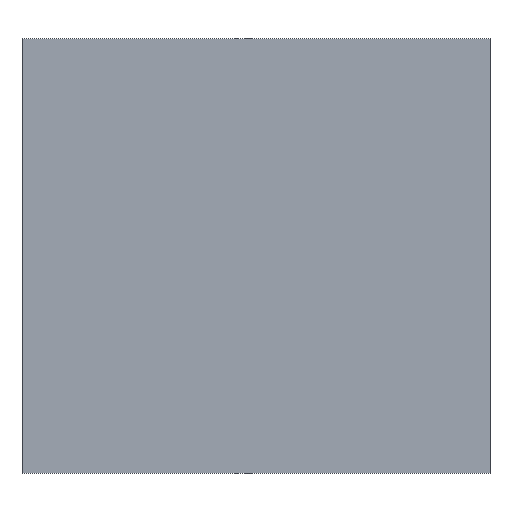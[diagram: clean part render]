
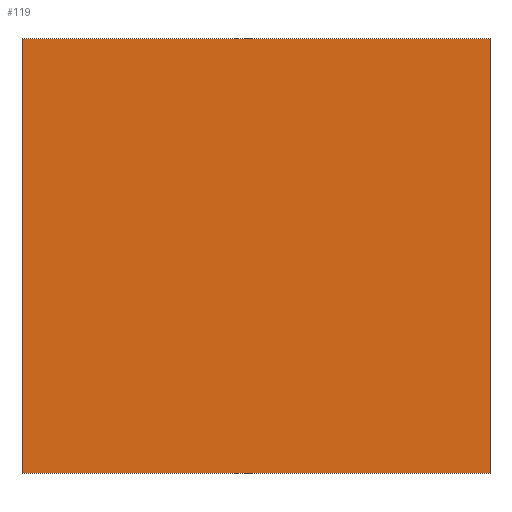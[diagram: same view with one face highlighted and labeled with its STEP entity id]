
A CAD part, left-side view. The second image highlights one B-rep face of the part: STEP entity #119.
In plain terms, the highlighted planar face has unit normal (-1, 0, 0).
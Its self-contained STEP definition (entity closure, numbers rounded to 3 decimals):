
#67=DIRECTION('',(0.,0.,-1.));
#68=VECTOR('',#67,2600.);
#69=CARTESIAN_POINT('',(-3541.5,-1400.,1299.));
#70=LINE('',#69,#68);
#75=DIRECTION('',(0.,1.,0.));
#76=VECTOR('',#75,2800.);
#77=CARTESIAN_POINT('',(-3541.5,-1400.,-1301.));
#78=LINE('',#77,#76);
#82=DIRECTION('',(0.,0.,1.));
#83=VECTOR('',#82,2600.);
#84=CARTESIAN_POINT('',(-3541.5,1400.,-1301.));
#85=LINE('',#84,#83);
#89=DIRECTION('',(0.,-1.,0.));
#90=VECTOR('',#89,2800.);
#91=CARTESIAN_POINT('',(-3541.5,1400.,1299.));
#92=LINE('',#91,#90);
#96=CARTESIAN_POINT('',(-3541.5,-1400.,-1301.));
#97=CARTESIAN_POINT('',(-3541.5,-1400.,1299.));
#98=VERTEX_POINT('',#96);
#99=VERTEX_POINT('',#97);
#100=CARTESIAN_POINT('',(-3541.5,1400.,1299.));
#101=VERTEX_POINT('',#100);
#102=CARTESIAN_POINT('',(-3541.5,1400.,-1301.));
#103=VERTEX_POINT('',#102);
#104=CARTESIAN_POINT('',(-3541.5,0.,0.));
#105=DIRECTION('',(-1.,0.,0.));
#106=DIRECTION('',(0.,1.,0.));
#107=AXIS2_PLACEMENT_3D('',#104,#105,#106);
#108=PLANE('',#107);
#110=ORIENTED_EDGE('',*,*,#109,.T.);
#112=ORIENTED_EDGE('',*,*,#111,.T.);
#114=ORIENTED_EDGE('',*,*,#113,.T.);
#116=ORIENTED_EDGE('',*,*,#115,.T.);
#117=EDGE_LOOP('',(#110,#112,#114,#116));
#118=FACE_OUTER_BOUND('',#117,.F.);
#109=EDGE_CURVE('',#99,#98,#70,.T.);
#111=EDGE_CURVE('',#98,#103,#78,.T.);
#113=EDGE_CURVE('',#103,#101,#85,.T.);
#115=EDGE_CURVE('',#101,#99,#92,.T.);
#119=ADVANCED_FACE('',(#118),#108,.T.);
